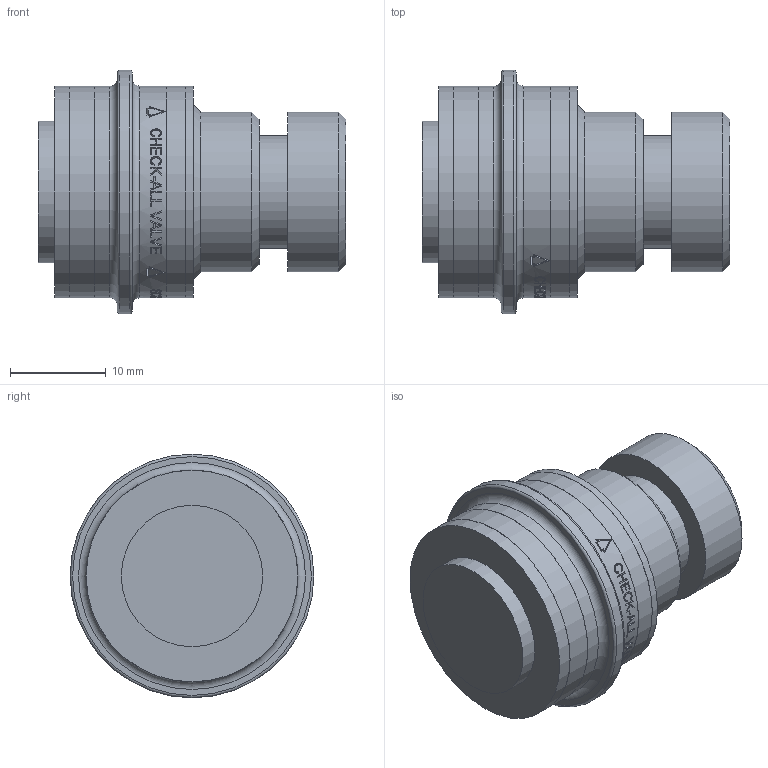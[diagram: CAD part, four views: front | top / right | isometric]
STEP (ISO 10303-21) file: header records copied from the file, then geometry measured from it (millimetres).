
FILE_DESCRIPTION( ( 'Unknown' ), '1' );
FILE_NAME( 'Y:/ENGR/3D Solid Edge Models/SC/SC-PRT/SCH.stp', 'Unknown', ( 'Unknown' ), ( 'Unknown' ), 'PSStep 14.0', 'Unknown', ' ' );
FILE_SCHEMA( ( 'AUTOMOTIVE_DESIGN { 1 0 10303 214 1 1 1 1 }' ) );
Length unit declared in the file: inch
Products named in the file (1): 1
Bounding box: 32.11 x 25.4 x 25.4 mm (x, y, z)
Volume: 9152.7 mm3; surface area: 3138 mm2
Topology: 1 solids, 1 shells, 216 faces, 535 edges, 355 vertices
Faces by surface type: plane 126, bspline 49, cylinder 34, torus 4, cone 3
Full cylindrical faces by diameter (mm): 11.786 x1, 14.732 x1, 16.637 x2, 22.073 x4, 22.098 x2, 25.4 x1
Entity records: 9203 total; most frequent: CARTESIAN_POINT 3475, ORIENTED_EDGE 1032, EDGE_CURVE 516, B_SPLINE_CURVE_WITH_KNOTS 486, DIRECTION 396, VERTEX_POINT 354, EDGE_LOOP 268, FACE_OUTER_BOUND 231
